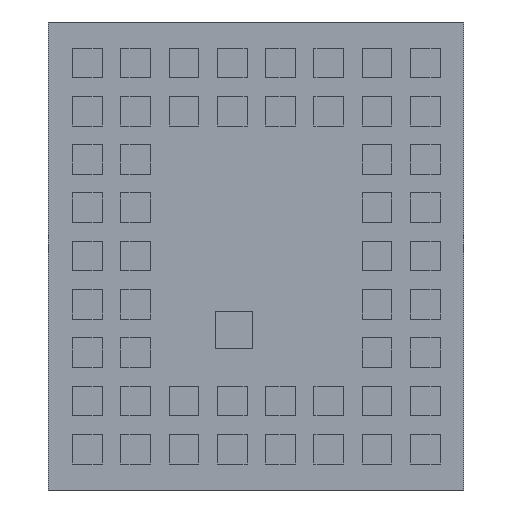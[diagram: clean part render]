
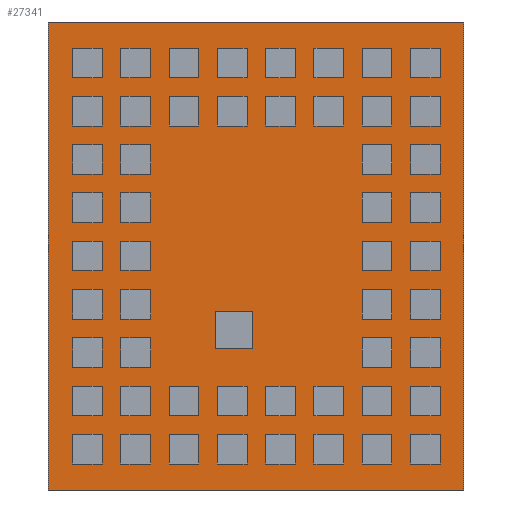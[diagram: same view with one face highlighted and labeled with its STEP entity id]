
A CAD part, front view. The second image highlights one B-rep face of the part: STEP entity #27341.
In plain terms, the highlighted planar face has unit normal (0, -1, 0).
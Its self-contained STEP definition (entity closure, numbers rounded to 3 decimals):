
#2205 = DIRECTION ( 'NONE',  ( 0., 0., 1. ) ) ;
#5797 = LINE ( 'NONE', #65971, #7651 ) ;
#7651 = VECTOR ( 'NONE', #21503, 1000. ) ;
#8151 = CARTESIAN_POINT ( 'NONE',  ( -2.8, 0.2, 3.15 ) ) ;
#8559 = CARTESIAN_POINT ( 'NONE',  ( 2.8, 0.2, -3.15 ) ) ;
#10328 = CARTESIAN_POINT ( 'NONE',  ( -2.8, 0.2, -3.15 ) ) ;
#18973 = EDGE_LOOP ( 'NONE', ( #47408, #64003, #90378, #97979 ) ) ;
#19150 = AXIS2_PLACEMENT_3D ( 'NONE', #40229, #55858, #2205 ) ;
#21503 = DIRECTION ( 'NONE',  ( 1., 0., 0. ) ) ;
#22497 = CARTESIAN_POINT ( 'NONE',  ( -2.8, 0.2, -3.15 ) ) ;
#27341 = ADVANCED_FACE ( 'NONE', ( #40701 ), #94824, .F. ) ;
#27922 = DIRECTION ( 'NONE',  ( 0., 0., 1. ) ) ;
#28376 = CARTESIAN_POINT ( 'NONE',  ( 2.8, 0.2, -3.15 ) ) ;
#33198 = EDGE_CURVE ( 'NONE', #35597, #34394, #51346, .T. ) ;
#34394 = VERTEX_POINT ( 'NONE', #28376 ) ;
#35597 = VERTEX_POINT ( 'NONE', #75921 ) ;
#36591 = EDGE_CURVE ( 'NONE', #49311, #75089, #5797, .T. ) ;
#40229 = CARTESIAN_POINT ( 'NONE',  ( -2.8, 0.2, -3.15 ) ) ;
#40701 = FACE_OUTER_BOUND ( 'NONE', #18973, .T. ) ;
#46090 = DIRECTION ( 'NONE',  ( 0., 0., 1. ) ) ;
#46726 = CARTESIAN_POINT ( 'NONE',  ( 2.8, 0.2, 3.15 ) ) ;
#47408 = ORIENTED_EDGE ( 'NONE', *, *, #36591, .F. ) ;
#49311 = VERTEX_POINT ( 'NONE', #8151 ) ;
#51346 = LINE ( 'NONE', #22497, #52999 ) ;
#52999 = VECTOR ( 'NONE', #80318, 1000. ) ;
#55858 = DIRECTION ( 'NONE',  ( 0., 1., 0. ) ) ;
#56144 = LINE ( 'NONE', #8559, #82360 ) ;
#61583 = EDGE_CURVE ( 'NONE', #34394, #75089, #56144, .T. ) ;
#64003 = ORIENTED_EDGE ( 'NONE', *, *, #91771, .F. ) ;
#65971 = CARTESIAN_POINT ( 'NONE',  ( -2.8, 0.2, 3.15 ) ) ;
#75089 = VERTEX_POINT ( 'NONE', #46726 ) ;
#75921 = CARTESIAN_POINT ( 'NONE',  ( -2.8, 0.2, -3.15 ) ) ;
#77687 = VECTOR ( 'NONE', #27922, 1000. ) ;
#79656 = LINE ( 'NONE', #10328, #77687 ) ;
#80318 = DIRECTION ( 'NONE',  ( 1., 0., 0. ) ) ;
#82360 = VECTOR ( 'NONE', #46090, 1000. ) ;
#90378 = ORIENTED_EDGE ( 'NONE', *, *, #33198, .T. ) ;
#91771 = EDGE_CURVE ( 'NONE', #35597, #49311, #79656, .T. ) ;
#94824 = PLANE ( 'NONE',  #19150 ) ;
#97979 = ORIENTED_EDGE ( 'NONE', *, *, #61583, .T. ) ;
